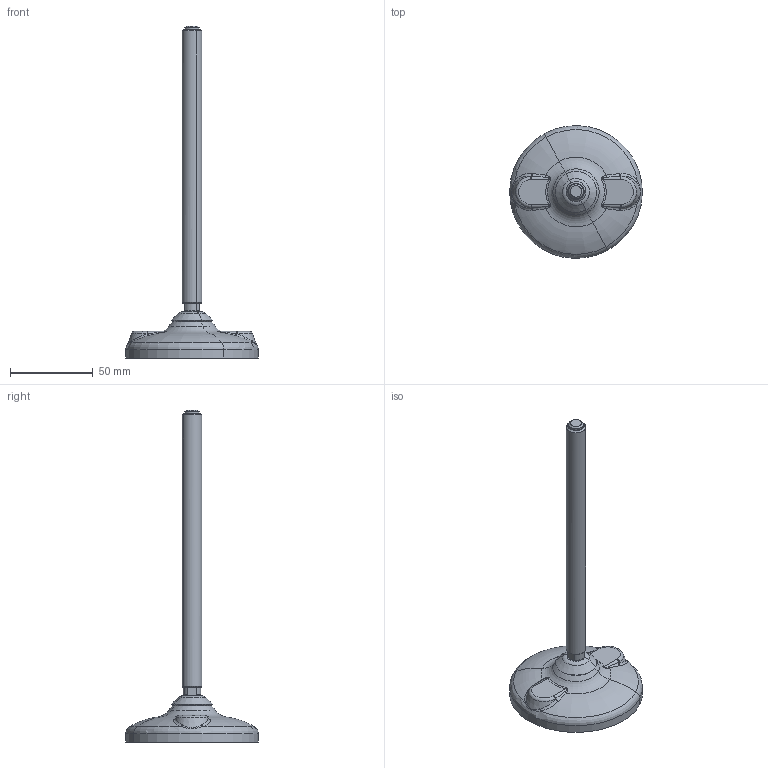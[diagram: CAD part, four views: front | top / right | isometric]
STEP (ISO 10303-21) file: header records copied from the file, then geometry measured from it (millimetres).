
FILE_DESCRIPTION(('STEP AP214'),'1');
FILE_NAME('P91003Z_01','2017-03-09T07:47:56',('dentellad'),(' '),'Spatial InterOp 3D',' ',' ');
FILE_SCHEMA(('automotive_design'));
Length unit declared in the file: millimetre
Products named in the file (3): 1; 2; 3
Bounding box: 79.98 x 79.98 x 200.11 mm (x, y, z)
Volume: 61429 mm3; surface area: 36207.1 mm2
Topology: 3 solids, 5 shells, 850 faces, 2280 edges, 1437 vertices
Faces by surface type: plane 492, bspline 146, torus 73, cylinder 46, cone 41, sphere 28, revolution 24
Entity records: 54858 total; most frequent: CARTESIAN_POINT 18713, ORIENTED_EDGE 4532, STYLED_ITEM 3105, PRESENTATION_STYLE_ASSIGNMENT 3105, COLOUR_RGB 3105, DIRECTION 2526, EDGE_CURVE 2266, CURVE_STYLE 2252
